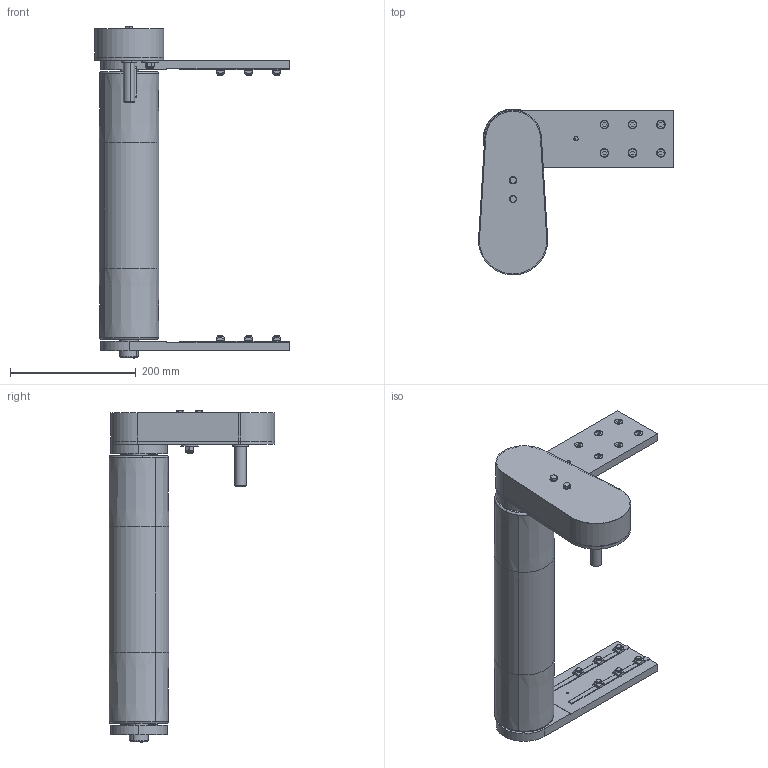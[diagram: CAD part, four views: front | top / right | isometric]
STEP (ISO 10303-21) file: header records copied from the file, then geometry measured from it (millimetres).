
FILE_DESCRIPTION (( 'STEP AP203' ), '1' );
FILE_NAME ('084.095.KTB.44.400.step', '2013-02-28T12:03:38', ( '' ), ( '' ), 'SwSTEP 2.0', 'SolidWorks 2011', '' );
FILE_SCHEMA (( 'CONFIG_CONTROL_DESIGN' ));
Length unit declared in the file: millimetre
Products named in the file (28): 084.095.KTB.44.400; Hex Screw GradeC_ALUSIC_ISO 4018 - M8 x 20-NS; Hex Screw GradeC_ALUSIC_ISO 4018 - M6 x 50-NS; ANELLI ELASTICI PER ESTERNI UNI 7435-75_Circlip DIN 471 - 30 x 1.5; CHIAVETTE_A 8x7x25 UNI 6604-69; CHIAVETTE_A 6x6x50 UNI 6604-69; Specchiatura084.302.000 DADI ALUSIC 13x13_084.302.004; 084.301.000 VITI ALUSIC_084.301.003; 084.302.000 DADI ALUSIC 13x13_084.302.004; 084.821.003; 084.810.006; Circlip for Shafts normal_din_Circlip DIN 471 - 8 x 0.8; Plain Washer XLarge Grade C_ALUSIC_Washer ISO 7094 - 8; Torque nut 01_ALUSIC_ISO 7040-M8-S; CUSCINETTI A SFERE_608-2RS; 084.810.008; 084.816.107_084.816.107<A macchina>; 084.813.004; 084.809.001; 084.821.002; 084.809.003; 084.813.002; 084.812.003; 084.802.019_084.802.019; 084.802.034_084.802.034; 084.808.002_084.808.002; 084.810.003; 084.808.003_084.808.003
Assembly tree (59 placements, depth 3):
  084.095.KTB.44.400
    Specchiatura084.302.000 DADI ALUSIC 13x13_084.302.004  x6
    084.301.000 VITI ALUSIC_084.301.003  x12
    084.802.019_084.802.019
    084.302.000 DADI ALUSIC 13x13_084.302.004  x6
    084.813.002
    CHIAVETTE_A 8x7x25 UNI 6604-69  x3
    084.809.001
    084.821.002  x2
    084.816.107_084.816.107<A macchina>
    084.808.002_084.808.002
    084.802.034_084.802.034
    084.810.003  x2
    Hex Screw GradeC_ALUSIC_ISO 4018 - M8 x 20-NS  x4
    ANELLI ELASTICI PER ESTERNI UNI 7435-75_Circlip DIN 471 - 30 x 1.5  x2
    084.821.003
    Hex Screw GradeC_ALUSIC_ISO 4018 - M6 x 50-NS  x2
    CHIAVETTE_A 6x6x50 UNI 6604-69
    084.809.003
    084.812.003
    084.810.006
      CUSCINETTI A SFERE_608-2RS  x3
      Circlip for Shafts normal_din_Circlip DIN 471 - 8 x 0.8
      Torque nut 01_ALUSIC_ISO 7040-M8-S
      084.810.008
      Plain Washer XLarge Grade C_ALUSIC_Washer ISO 7094 - 8
    084.808.003_084.808.003
    084.813.004
Bounding box: 310 x 263.87 x 527.88 mm (x, y, z)
Volume: 2040867 mm3; surface area: 894984 mm2
Topology: 63 solids, 64 shells, 2824 faces, 7303 edges, 4674 vertices
Faces by surface type: cylinder 1020, plane 856, cone 817, torus 122, sphere 9
Entity records: 54426 total; most frequent: CARTESIAN_POINT 9747, DIRECTION 9188, ORIENTED_EDGE 8292, EDGE_CURVE 4146, AXIS2_PLACEMENT_3D 3514, VERTEX_POINT 2669, VECTOR 2160, LINE 2160
